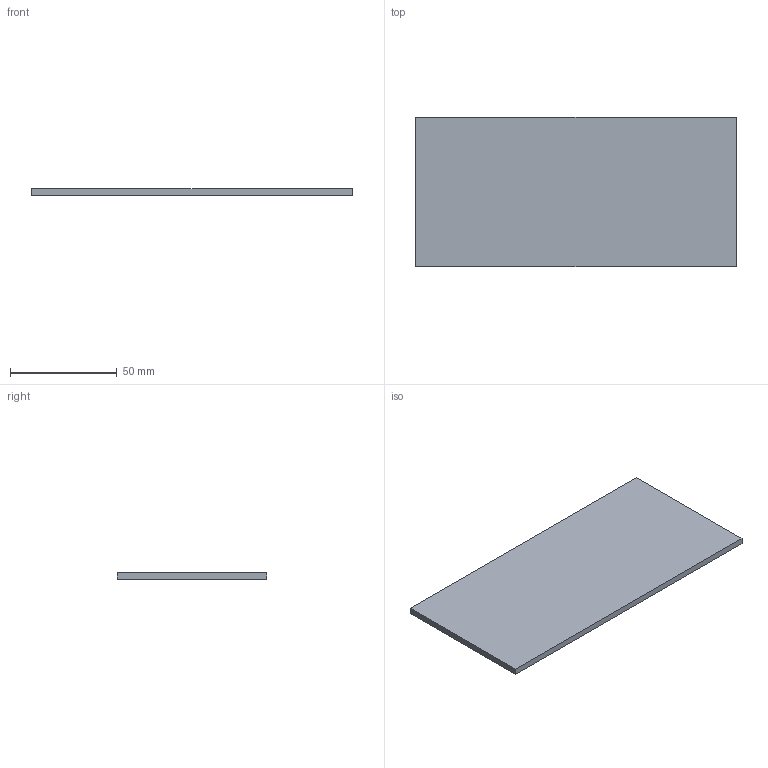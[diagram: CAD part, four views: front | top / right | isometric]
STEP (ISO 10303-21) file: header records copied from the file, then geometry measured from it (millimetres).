
FILE_DESCRIPTION(('FreeCAD Model'),'2;1');
FILE_NAME('Open CASCADE Shape Model','2026-09-11T23:31:48',('FreeCAD'),( 'FreeCAD'),'Open CASCADE STEP processor 7.8','FreeCAD','Unknown');
FILE_SCHEMA(('AUTOMOTIVE_DESIGN { 1 0 10303 214 1 1 1 1 }'));
Products named in the file (1): Open CASCADE STEP translator 7.8 18
Bounding box: 150 x 70 x 3 mm (x, y, z)
Volume: 30794.4 mm3; surface area: 24725.1 mm2
Topology: 1 solids, 1 shells, 5386 faces, 12924 edges, 8616 vertices
Faces by surface type: plane 5386
Entity records: 152958 total; most frequent: CARTESIAN_POINT 26927, ORIENTED_EDGE 25848, DIRECTION 23698, EDGE_CURVE 12924, LINE 12924, VECTOR 12924, VERTEX_POINT 8616, FACE_BOUND 6462
